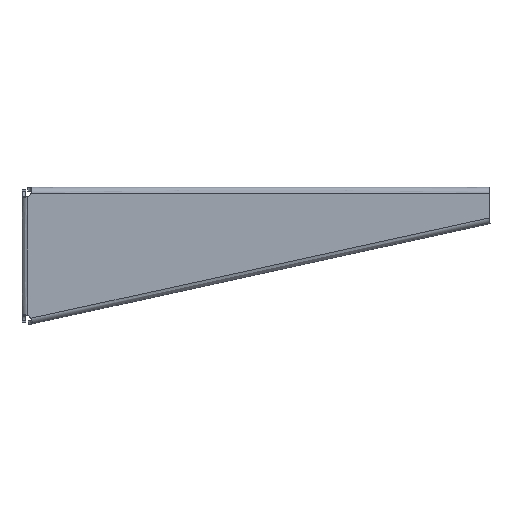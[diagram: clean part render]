
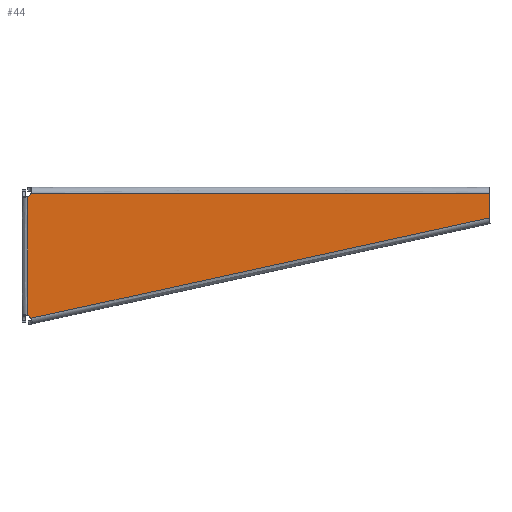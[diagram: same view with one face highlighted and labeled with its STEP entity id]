
A CAD part, left-side view. The second image highlights one B-rep face of the part: STEP entity #44.
In plain terms, the highlighted planar face has unit normal (-1, 0, 0).
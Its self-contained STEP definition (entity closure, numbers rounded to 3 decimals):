
#44=ADVANCED_FACE('',(#103),#915,.T.);
#103=FACE_OUTER_BOUND('',#166,.T.);
#166=EDGE_LOOP('',(#329,#330,#331,#332,#333,#334));
#329=ORIENTED_EDGE('',*,*,#557,.T.);
#330=ORIENTED_EDGE('',*,*,#558,.T.);
#331=ORIENTED_EDGE('',*,*,#596,.T.);
#332=ORIENTED_EDGE('',*,*,#534,.T.);
#333=ORIENTED_EDGE('',*,*,#564,.T.);
#334=ORIENTED_EDGE('',*,*,#588,.T.);
#534=EDGE_CURVE('',#800,#801,#727,.T.);
#557=EDGE_CURVE('',#838,#824,#750,.T.);
#558=EDGE_CURVE('',#824,#839,#751,.T.);
#564=EDGE_CURVE('',#801,#840,#757,.T.);
#588=EDGE_CURVE('',#840,#838,#659,.T.);
#596=EDGE_CURVE('',#839,#800,#779,.T.);
#659=B_SPLINE_CURVE_WITH_KNOTS('',3,(#1757,#1758,#1759,#1760),
 .UNSPECIFIED.,.F.,.F.,(4,4),(-245.9,0.),.UNSPECIFIED.);
#727=(
BOUNDED_CURVE()
B_SPLINE_CURVE(2,(#1595,#1596,#1597),.UNSPECIFIED.,.F.,.F.)
B_SPLINE_CURVE_WITH_KNOTS((3,3),(-1436.727,-1369.838),
 .UNSPECIFIED.)
CURVE()
GEOMETRIC_REPRESENTATION_ITEM()
RATIONAL_B_SPLINE_CURVE((1.,1.,1.))
REPRESENTATION_ITEM('')
);
#750=(
BOUNDED_CURVE()
B_SPLINE_CURVE(2,(#1658,#1659,#1660),.UNSPECIFIED.,.F.,.F.)
B_SPLINE_CURVE_WITH_KNOTS((3,3),(-1904.843,-1877.941),
 .UNSPECIFIED.)
CURVE()
GEOMETRIC_REPRESENTATION_ITEM()
RATIONAL_B_SPLINE_CURVE((1.,1.,1.))
REPRESENTATION_ITEM('')
);
#751=(
BOUNDED_CURVE()
B_SPLINE_CURVE(2,(#1661,#1662,#1663),.UNSPECIFIED.,.F.,.F.)
B_SPLINE_CURVE_WITH_KNOTS((3,3),(-1877.941,-1439.28),
 .UNSPECIFIED.)
CURVE()
GEOMETRIC_REPRESENTATION_ITEM()
RATIONAL_B_SPLINE_CURVE((1.,1.,1.))
REPRESENTATION_ITEM('')
);
#757=(
BOUNDED_CURVE()
B_SPLINE_CURVE(2,(#1680,#1681,#1682,#1683,#1684),.UNSPECIFIED.,.F.,.F.)
B_SPLINE_CURVE_WITH_KNOTS((3,2,3),(-1369.694,-1368.346,-1367.391),
 .UNSPECIFIED.)
CURVE()
GEOMETRIC_REPRESENTATION_ITEM()
RATIONAL_B_SPLINE_CURVE((1.,1.009,1.071,1.022,
1.))
REPRESENTATION_ITEM('')
);
#779=(
BOUNDED_CURVE()
B_SPLINE_CURVE(2,(#1788,#1789,#1790,#1791,#1792),.UNSPECIFIED.,.F.,.F.)
B_SPLINE_CURVE_WITH_KNOTS((3,2,3),(-1439.424,-1438.075,
-1436.727),.UNSPECIFIED.)
CURVE()
GEOMETRIC_REPRESENTATION_ITEM()
RATIONAL_B_SPLINE_CURVE((1.,1.012,1.076,1.012,
1.))
REPRESENTATION_ITEM('')
);
#800=VERTEX_POINT('',#1405);
#801=VERTEX_POINT('',#1406);
#824=VERTEX_POINT('',#1429);
#838=VERTEX_POINT('',#1443);
#839=VERTEX_POINT('',#1444);
#840=VERTEX_POINT('',#1445);
#915=PLANE('',#1055);
#1055=AXIS2_PLACEMENT_3D('',#1247,#1105,$);
#1105=DIRECTION('',(-1.,0.,0.));
#1247=CARTESIAN_POINT('',(1.751,30.25,-136.467));
#1405=CARTESIAN_POINT('',(1.751,0.,-64.46));
#1406=CARTESIAN_POINT('',(1.751,0.,-126.803));
#1429=CARTESIAN_POINT('',(1.751,-242.,-62.631));
#1443=CARTESIAN_POINT('',(1.751,-242.,-75.584));
#1444=CARTESIAN_POINT('',(1.751,-1.828,-62.631));
#1445=CARTESIAN_POINT('',(1.751,-1.67,-128.263));
#1595=CARTESIAN_POINT('',(1.751,0.,-64.46));
#1596=CARTESIAN_POINT('',(1.751,0.,-95.631));
#1597=CARTESIAN_POINT('',(1.751,0.,-126.803));
#1658=CARTESIAN_POINT('',(1.751,-242.,-75.584));
#1659=CARTESIAN_POINT('',(1.751,-242.,-69.108));
#1660=CARTESIAN_POINT('',(1.751,-242.,-62.631));
#1661=CARTESIAN_POINT('',(1.751,-242.,-62.631));
#1662=CARTESIAN_POINT('',(1.751,-121.914,-62.631));
#1663=CARTESIAN_POINT('',(1.751,-1.828,-62.631));
#1680=CARTESIAN_POINT('',(1.751,0.,-126.803));
#1681=CARTESIAN_POINT('',(1.751,-0.641,-127.029));
#1682=CARTESIAN_POINT('',(1.751,-1.121,-127.51));
#1683=CARTESIAN_POINT('',(1.751,-1.455,-127.843));
#1684=CARTESIAN_POINT('',(1.751,-1.67,-128.263));
#1757=CARTESIAN_POINT('',(1.751,-1.67,-128.263));
#1758=CARTESIAN_POINT('',(1.751,-81.779,-110.704));
#1759=CARTESIAN_POINT('',(1.751,-161.89,-93.144));
#1760=CARTESIAN_POINT('',(1.751,-242.,-75.584));
#1788=CARTESIAN_POINT('',(1.751,-1.828,-62.631));
#1789=CARTESIAN_POINT('',(1.751,-1.602,-63.272));
#1790=CARTESIAN_POINT('',(1.751,-1.121,-63.752));
#1791=CARTESIAN_POINT('',(1.751,-0.641,-64.233));
#1792=CARTESIAN_POINT('',(1.751,0.,-64.46));
